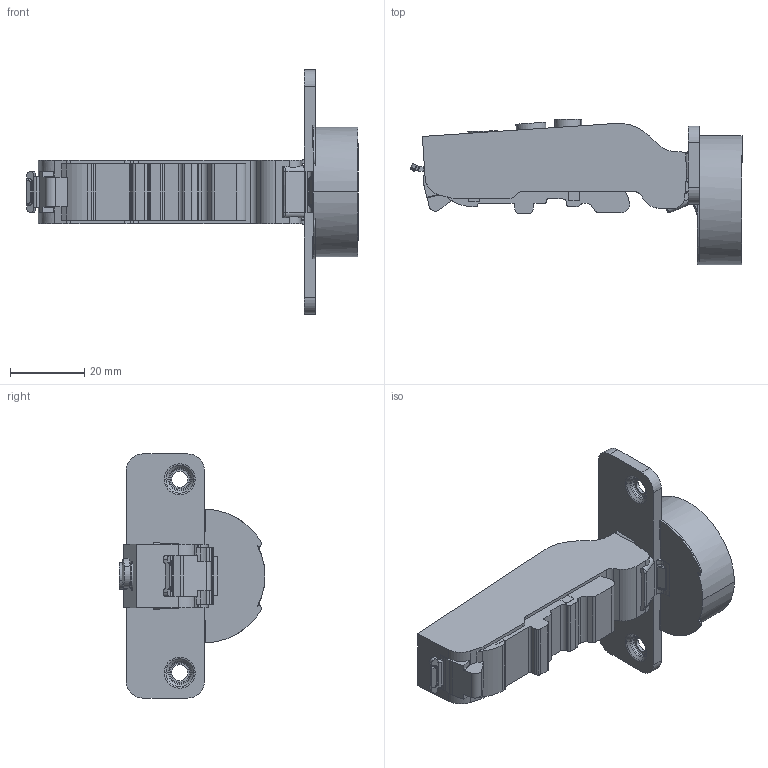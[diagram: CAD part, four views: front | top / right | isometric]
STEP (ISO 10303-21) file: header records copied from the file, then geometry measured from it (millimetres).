
FILE_DESCRIPTION (( 'STEP AP203' ), '1' );
FILE_NAME ('C81A816FAB DTC 3D CLOSE.STEP', '2024-07-19T06:33:37', ( '微软用户' ), ( '微软中国' ), 'SwSTEP 2.0', 'SolidWorks 2021', '' );
FILE_SCHEMA (( 'CONFIG_CONTROL_DESIGN' ));
Length unit declared in the file: millimetre
Products named in the file (1): C81A816FAB DTC 3D CLOSE
Bounding box: 89.24 x 39.24 x 65.6 mm (x, y, z)
Volume: 38553.5 mm3; surface area: 11592.1 mm2
Topology: 1 solids, 1 shells, 361 faces, 1040 edges, 677 vertices
Faces by surface type: plane 152, cylinder 144, torus 36, bspline 16, cone 13
Entity records: 12594 total; most frequent: CARTESIAN_POINT 3116, ORIENTED_EDGE 2076, DIRECTION 1911, EDGE_CURVE 1038, AXIS2_PLACEMENT_3D 677, VERTEX_POINT 677, LINE 557, VECTOR 557
